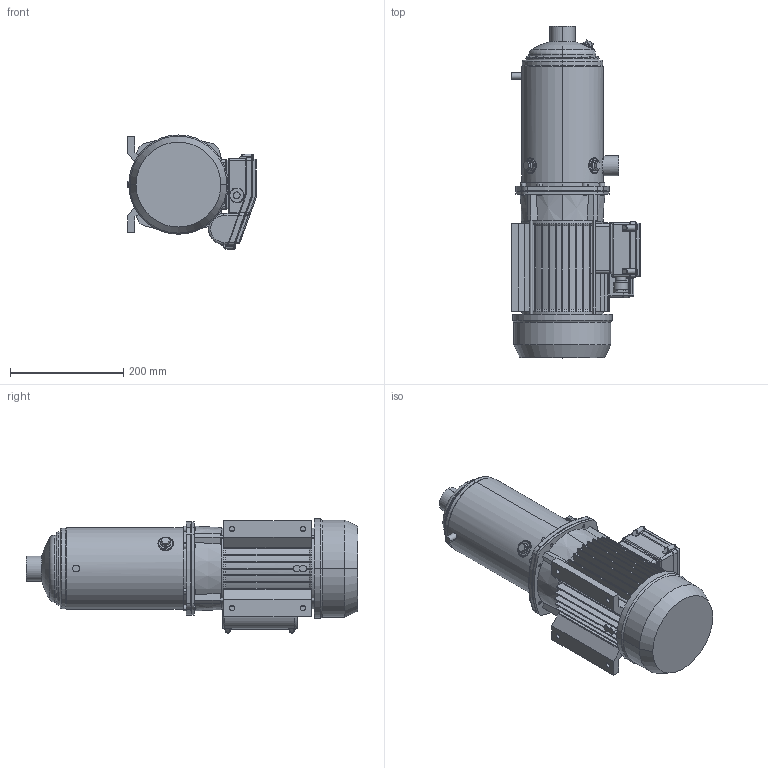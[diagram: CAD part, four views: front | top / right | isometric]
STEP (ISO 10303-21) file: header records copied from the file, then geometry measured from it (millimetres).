
FILE_DESCRIPTION((''),'2;1');
FILE_NAME('MATRIX_5-9T_2_2_M_ASM','2017-04-07T',('rosa'),('"Ebara Pumps Europe +39.444.706811"'),'PRO/ENGINEER BY PARAMETRIC TECHNOLOGY CORPORATION, 2012130','PRO/ENGINEER BY PARAMETRIC TECHNOLOGY CORPORATION, 2012130','');
FILE_SCHEMA(('AUTOMOTIVE_DESIGN { 1 0 10303 214 1 1 1 1 }'));
Length unit declared in the file: millimetre
Products named in the file (5): CORPO_POMPA_MATRIX_5-9; SUPPORTO_MATRIX_MEC_90; MEC_90X120_MONOFASE_ZAMP; COPRIMORSETTIERA_MEC80_90_M; MATRIX_5-9T_2_2_M_ASM
Assembly tree (4 placements, depth 2):
  MATRIX_5-9T_2_2_M_ASM
    CORPO_POMPA_MATRIX_5-9
    SUPPORTO_MATRIX_MEC_90
    MEC_90X120_MONOFASE_ZAMP
    COPRIMORSETTIERA_MEC80_90_M
Bounding box: 228 x 586.8 x 201.8 mm (x, y, z)
Volume: 8457781.9 mm3; surface area: 740243.9 mm2
Topology: 4 solids, 4 shells, 911 faces, 2164 edges, 1309 vertices
Faces by surface type: plane 402, cylinder 297, cone 104, bspline 56, torus 48, sphere 4
Entity records: 37099 total; most frequent: CARTESIAN_POINT 8930, DIRECTION 4442, ORIENTED_EDGE 4328, PRESENTATION_STYLE_ASSIGNMENT 2168, STYLED_ITEM 2168, CURVE_STYLE 2164, EDGE_CURVE 2164, AXIS2_PLACEMENT_3D 1712
